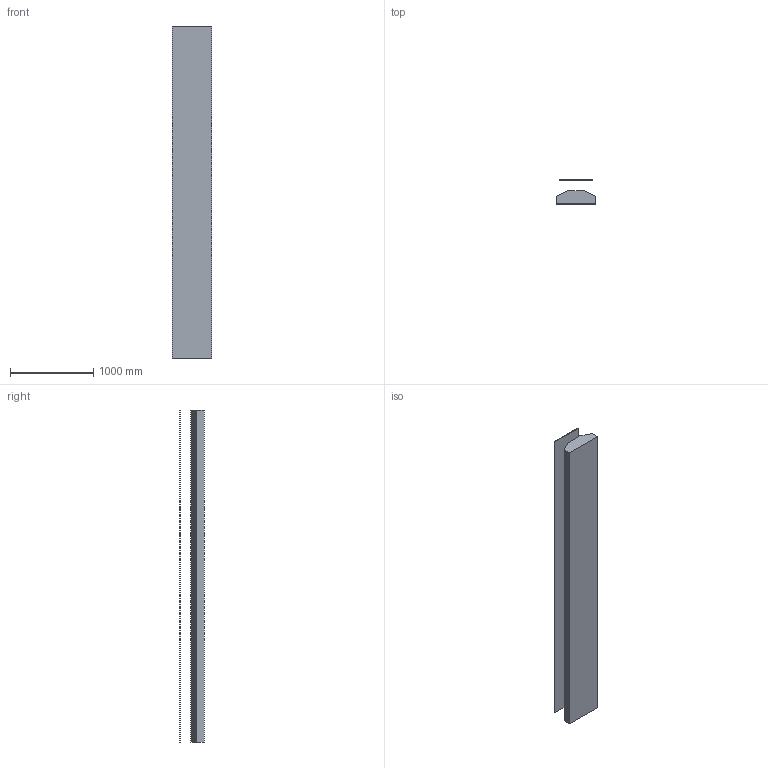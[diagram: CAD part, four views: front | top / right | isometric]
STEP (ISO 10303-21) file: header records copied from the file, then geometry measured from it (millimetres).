
FILE_DESCRIPTION (( 'STEP AP203' ), '1' );
FILE_NAME ('30774.step', '2019-03-14T14:33:10', ( 'PC' ), ( 'Hewlett-Packard Company' ), 'SwSTEP 2.0', 'SolidWorks 2016', '' );
FILE_SCHEMA (( 'CONFIG_CONTROL_DESIGN' ));
Length unit declared in the file: millimetre
Products named in the file (1): 30774
Bounding box: 480 x 293.5 x 4000 mm (x, y, z)
Volume: 277600000 mm3; surface area: 8078998.1 mm2
Topology: 2 solids, 2 shells, 14 faces, 30 edges, 20 vertices
Faces by surface type: plane 14
Entity records: 449 total; most frequent: CARTESIAN_POINT 65, DIRECTION 60, ORIENTED_EDGE 60, EDGE_CURVE 30, VECTOR 30, LINE 30, VERTEX_POINT 20, AXIS2_PLACEMENT_3D 15
